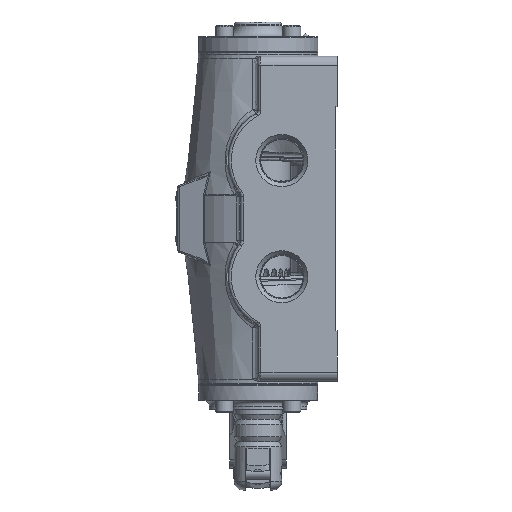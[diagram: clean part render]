
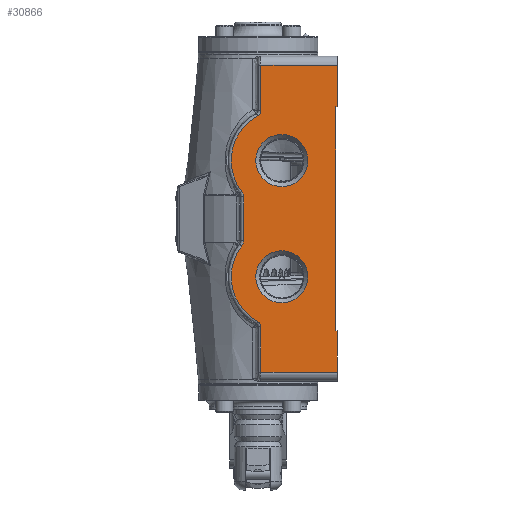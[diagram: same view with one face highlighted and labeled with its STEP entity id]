
A CAD part, left-side view. The second image highlights one B-rep face of the part: STEP entity #30866.
In plain terms, the highlighted planar face has unit normal (-1, 0, 0).
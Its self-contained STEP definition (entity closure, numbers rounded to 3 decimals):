
#2702=LINE('',#72022,#4241);
#2703=LINE('',#72038,#4242);
#2704=LINE('',#72054,#4243);
#2706=LINE('',#72064,#4245);
#2707=LINE('',#72068,#4246);
#2708=LINE('',#72070,#4247);
#2709=LINE('',#72072,#4248);
#2710=LINE('',#72074,#4249);
#2711=LINE('',#72075,#4250);
#2712=LINE('',#72076,#4251);
#4241=VECTOR('',#40045,2.424);
#4242=VECTOR('',#40068,2.317);
#4243=VECTOR('',#40091,2.424);
#4245=VECTOR('',#40105,4.048);
#4246=VECTOR('',#40108,2.223);
#4247=VECTOR('',#40109,0.079);
#4248=VECTOR('',#40110,11.906);
#4249=VECTOR('',#40111,0.079);
#4250=VECTOR('',#40112,2.223);
#4251=VECTOR('',#40113,4.048);
#7398=PLANE('',#33682);
#7781=FACE_BOUND('',#11318,.T.);
#7782=FACE_BOUND('',#11319,.T.);
#9109=FACE_OUTER_BOUND('',#11317,.T.);
#11317=EDGE_LOOP('',(#26125,#26126,#26127,#26128,#26129,#26130,#26131,#26132,
#26133,#26134,#26135,#26136,#26137,#26138,#26139,#26140));
#11318=EDGE_LOOP('',(#26141));
#11319=EDGE_LOOP('',(#26142));
#13106=CIRCLE('',#33656,0.318);
#13108=CIRCLE('',#33659,2.699);
#13110=CIRCLE('',#33662,0.476);
#13113=CIRCLE('',#33667,0.476);
#13115=CIRCLE('',#33670,2.699);
#13117=CIRCLE('',#33673,0.318);
#13122=CIRCLE('',#33683,1.389);
#13123=CIRCLE('',#33684,1.389);
#15561=VERTEX_POINT('',#72016);
#15562=VERTEX_POINT('',#72020);
#15563=VERTEX_POINT('',#72024);
#15564=VERTEX_POINT('',#72028);
#15565=VERTEX_POINT('',#72032);
#15566=VERTEX_POINT('',#72036);
#15567=VERTEX_POINT('',#72040);
#15568=VERTEX_POINT('',#72044);
#15569=VERTEX_POINT('',#72048);
#15570=VERTEX_POINT('',#72052);
#15572=VERTEX_POINT('',#72062);
#15573=VERTEX_POINT('',#72066);
#15574=VERTEX_POINT('',#72067);
#15575=VERTEX_POINT('',#72069);
#15576=VERTEX_POINT('',#72071);
#15577=VERTEX_POINT('',#72073);
#15578=VERTEX_POINT('',#72077);
#15579=VERTEX_POINT('',#72079);
#19181=EDGE_CURVE('',#15562,#15561,#2702,.T.);
#19183=EDGE_CURVE('',#15563,#15562,#13106,.T.);
#19185=EDGE_CURVE('',#15564,#15563,#13108,.T.);
#19187=EDGE_CURVE('',#15565,#15564,#13110,.T.);
#19189=EDGE_CURVE('',#15566,#15565,#2703,.T.);
#19191=EDGE_CURVE('',#15567,#15566,#13113,.T.);
#19193=EDGE_CURVE('',#15568,#15567,#13115,.T.);
#19195=EDGE_CURVE('',#15569,#15568,#13117,.T.);
#19197=EDGE_CURVE('',#15570,#15569,#2704,.T.);
#19202=EDGE_CURVE('',#15561,#15572,#2706,.T.);
#19203=EDGE_CURVE('',#15573,#15574,#2707,.T.);
#19204=EDGE_CURVE('',#15574,#15575,#2708,.T.);
#19205=EDGE_CURVE('',#15575,#15576,#2709,.T.);
#19206=EDGE_CURVE('',#15576,#15577,#2710,.T.);
#19207=EDGE_CURVE('',#15577,#15572,#2711,.T.);
#19208=EDGE_CURVE('',#15573,#15570,#2712,.T.);
#19209=EDGE_CURVE('',#15578,#15578,#13122,.T.);
#19210=EDGE_CURVE('',#15579,#15579,#13123,.T.);
#26125=ORIENTED_EDGE('',*,*,#19203,.T.);
#26126=ORIENTED_EDGE('',*,*,#19204,.T.);
#26127=ORIENTED_EDGE('',*,*,#19205,.T.);
#26128=ORIENTED_EDGE('',*,*,#19206,.T.);
#26129=ORIENTED_EDGE('',*,*,#19207,.T.);
#26130=ORIENTED_EDGE('',*,*,#19202,.F.);
#26131=ORIENTED_EDGE('',*,*,#19181,.F.);
#26132=ORIENTED_EDGE('',*,*,#19183,.F.);
#26133=ORIENTED_EDGE('',*,*,#19185,.F.);
#26134=ORIENTED_EDGE('',*,*,#19187,.F.);
#26135=ORIENTED_EDGE('',*,*,#19189,.F.);
#26136=ORIENTED_EDGE('',*,*,#19191,.F.);
#26137=ORIENTED_EDGE('',*,*,#19193,.F.);
#26138=ORIENTED_EDGE('',*,*,#19195,.F.);
#26139=ORIENTED_EDGE('',*,*,#19197,.F.);
#26140=ORIENTED_EDGE('',*,*,#19208,.F.);
#26141=ORIENTED_EDGE('',*,*,#19209,.T.);
#26142=ORIENTED_EDGE('',*,*,#19210,.T.);
#30866=ADVANCED_FACE('',(#9109,#7781,#7782),#7398,.F.);
#33656=AXIS2_PLACEMENT_3D('',#72026,#40050,#40051);
#33659=AXIS2_PLACEMENT_3D('',#72030,#40056,#40057);
#33662=AXIS2_PLACEMENT_3D('',#72034,#40062,#40063);
#33667=AXIS2_PLACEMENT_3D('',#72042,#40073,#40074);
#33670=AXIS2_PLACEMENT_3D('',#72046,#40079,#40080);
#33673=AXIS2_PLACEMENT_3D('',#72050,#40085,#40086);
#33682=AXIS2_PLACEMENT_3D('',#72065,#40106,#40107);
#33683=AXIS2_PLACEMENT_3D('',#72078,#40114,#40115);
#33684=AXIS2_PLACEMENT_3D('',#72080,#40116,#40117);
#40045=DIRECTION('',(0.,0.,1.));
#40050=DIRECTION('center_axis',(-1.,0.,0.));
#40051=DIRECTION('ref_axis',(0.,-0.858,-0.513));
#40056=DIRECTION('center_axis',(1.,0.,0.));
#40057=DIRECTION('ref_axis',(0.,0.978,0.209));
#40062=DIRECTION('center_axis',(-1.,0.,0.));
#40063=DIRECTION('ref_axis',(0.,-0.947,0.322));
#40068=DIRECTION('',(0.,0.,1.));
#40073=DIRECTION('center_axis',(-1.,0.,0.));
#40074=DIRECTION('ref_axis',(0.,-0.947,-0.322));
#40079=DIRECTION('center_axis',(1.,0.,0.));
#40080=DIRECTION('ref_axis',(0.,0.978,-0.209));
#40085=DIRECTION('center_axis',(-1.,0.,0.));
#40086=DIRECTION('ref_axis',(0.,-0.858,0.513));
#40091=DIRECTION('',(0.,0.,1.));
#40105=DIRECTION('',(0.,-1.,0.));
#40106=DIRECTION('center_axis',(1.,0.,0.));
#40107=DIRECTION('ref_axis',(0.,0.,-1.));
#40108=DIRECTION('',(0.,0.,1.));
#40109=DIRECTION('',(0.,1.,0.));
#40110=DIRECTION('',(0.,0.,1.));
#40111=DIRECTION('',(0.,-1.,0.));
#40112=DIRECTION('',(0.,0.,1.));
#40113=DIRECTION('',(0.,1.,0.));
#40114=DIRECTION('center_axis',(1.,0.,0.));
#40115=DIRECTION('ref_axis',(0.,0.,1.));
#40116=DIRECTION('center_axis',(1.,0.,0.));
#40117=DIRECTION('ref_axis',(0.,0.,1.));
#72016=CARTESIAN_POINT('',(-5.556,-0.159,8.176));
#72020=CARTESIAN_POINT('',(-5.556,-0.159,5.752));
#72022=CARTESIAN_POINT('',(-5.556,-0.159,4.326));
#72024=CARTESIAN_POINT('',(-5.556,0.008,5.472));
#72026=CARTESIAN_POINT('Origin',(-5.556,0.159,5.752));
#72028=CARTESIAN_POINT('',(-5.556,0.868,1.449));
#72030=CARTESIAN_POINT('Origin',(-5.556,-1.27,3.096));
#72032=CARTESIAN_POINT('',(-5.556,0.77,1.159));
#72034=CARTESIAN_POINT('Origin',(-5.556,1.246,1.159));
#72036=CARTESIAN_POINT('',(-5.556,0.77,-1.159));
#72038=CARTESIAN_POINT('',(-5.556,0.77,0.635));
#72040=CARTESIAN_POINT('',(-5.556,0.868,-1.449));
#72042=CARTESIAN_POINT('Origin',(-5.556,1.246,-1.159));
#72044=CARTESIAN_POINT('',(-5.556,0.008,-5.472));
#72046=CARTESIAN_POINT('Origin',(-5.556,-1.27,-3.096));
#72048=CARTESIAN_POINT('',(-5.556,-0.159,-5.752));
#72050=CARTESIAN_POINT('Origin',(-5.556,0.159,-5.752));
#72052=CARTESIAN_POINT('',(-5.556,-0.159,-8.176));
#72054=CARTESIAN_POINT('',(-5.556,-0.159,4.326));
#72062=CARTESIAN_POINT('',(-5.556,-4.207,8.176));
#72064=CARTESIAN_POINT('',(-5.556,-3.215,8.176));
#72065=CARTESIAN_POINT('Origin',(-5.556,-2.143,0.));
#72066=CARTESIAN_POINT('',(-5.556,-4.207,-8.176));
#72067=CARTESIAN_POINT('',(-5.556,-4.207,-5.953));
#72068=CARTESIAN_POINT('',(-5.556,-4.207,0.));
#72069=CARTESIAN_POINT('',(-5.556,-4.128,-5.953));
#72070=CARTESIAN_POINT('',(-5.556,-3.175,-5.953));
#72071=CARTESIAN_POINT('',(-5.556,-4.128,5.953));
#72072=CARTESIAN_POINT('',(-5.556,-4.128,0.));
#72073=CARTESIAN_POINT('',(-5.556,-4.207,5.953));
#72074=CARTESIAN_POINT('',(-5.556,-3.175,5.953));
#72075=CARTESIAN_POINT('',(-5.556,-4.207,0.));
#72076=CARTESIAN_POINT('',(-5.556,-1.072,-8.176));
#72077=CARTESIAN_POINT('',(-5.556,-1.27,4.485));
#72078=CARTESIAN_POINT('Origin',(-5.556,-1.27,3.096));
#72079=CARTESIAN_POINT('',(-5.556,-1.27,-1.707));
#72080=CARTESIAN_POINT('Origin',(-5.556,-1.27,-3.096));
